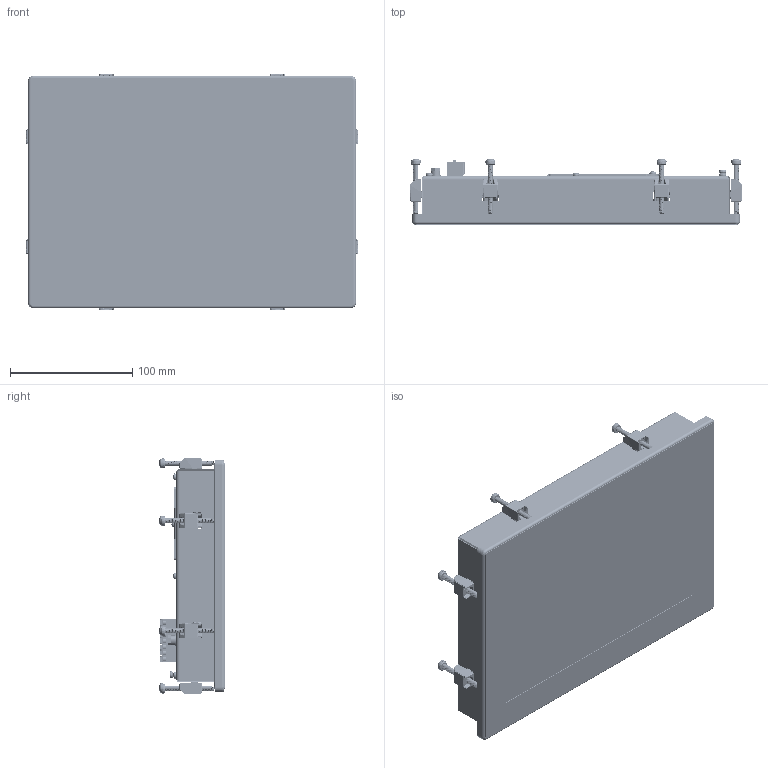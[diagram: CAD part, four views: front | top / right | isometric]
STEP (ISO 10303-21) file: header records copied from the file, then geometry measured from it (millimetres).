
FILE_DESCRIPTION(/* description */ (''),/* implementation_level */ '2;1');
FILE_NAME(/* name */ 'PC-TC-WP815_20260617_res.stp',/* time_stamp */ '2026-06-17T11:49:46+02:00',/* author */ ('ut3'),/* organization */ ('NYSS'),/* preprocessor_version */ 'ST-DEVELOPER v20.1',/* originating_system */ 'Autodesk Inventor 2026',/* authorisation */ '');
FILE_SCHEMA (('AUTOMOTIVE_DESIGN { 1 0 10303 214 3 1 1 }'));
Products named in the file (134): TD815-WP-PC_ASM; 1300_20_575_V2; EV101WXM-N10; 1600_00_016; 1300_20_576_V1_ASM; 1300_20_576_V1; DP06_1030_M3; 1600_00_228; UPS-8CAP_ASM; UPS; 0200_20_063_10F-3V; 1300_20_577_v2; 1600_00_059; M3_FTR_L; M4_FTTC_C; 1300_20_369_V2; 1600_00_165; 1600_00_166; 1600_00_167; 1900_00_326; GUARNIZIONE; BLOCCHETTO_FISSAGGIO_ASM; DADO_M4; VITE_M4X40; ISO_7045_-_M3_X_10_-_4_8_-_Z; 1600.00.026; ISO 7045 - M3 x 10 - 4.8 - Z; 0400.60.078_1910403_04_FKC-2-5-7-ST_3D; fkc_2.5-7-st; 1300_20_304_REV2; ISO 7045 - M4 x 40 - 4.8 - Z; QMB210_6; QMB210_V6_Contorno; ESTR-MAS/7PV-BLK; RJ45-10/100/1G-V-LED; USB-A; M.2-M; DADO3MACS; ETH-TRAFO-100/1000; TORR-M2.5H5.0/SP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
Assembly tree (531 placements, depth 3):
  TD815-WP-PC_ASM
    1300_20_575_V2
    EV101WXM-N10
    1600_00_016  x8
    1300_20_576_V1_ASM
      1300_20_576_V1
      DP06_1030_M3  x7
    1600_00_228  x8
    1600_00_059  x23
    UPS-8CAP_ASM
      UPS
      0200_20_063_10F-3V  x8
    1300_20_577_v2
    M3_FTR_L
    M4_FTTC_C
    1300_20_369_V2
    1600_00_165
    1600_00_166
    1600_00_167
    1900_00_326
    GUARNIZIONE
    BLOCCHETTO_FISSAGGIO_ASM  x8
      1300_20_304_REV2
      DADO_M4
      VITE_M4X40
    ISO_7045_-_M3_X_10_-_4_8_-_Z
    1600.00.026
    ISO 7045 - M3 x 10 - 4.8 - Z
    0400.60.078_1910403_04_FKC-2-5-7-ST_3D
      fkc_2.5-7-st
    1300_20_304_REV2  x8
    ISO 7045 - M4 x 40 - 4.8 - Z  x8
    QMB210_6
      QMB210_V6_Contorno
      ESTR-MAS/7PV-BLK
      R0/S  x11
      RJ45-10/100/1G-V-LED  x2
      USB-A
      M.2-M
      DADO3MACS
      ETH-TRAFO-100/1000  x2
      TORR-M2.5H5.0/SP  x4
      SMBJ5.0A-6.8  x4
      4.7nF/S3 1KV  x3
      1M/S
      AP64501SP-13  x3
      FER-100MHz-1K/S2  x4
      220/S2 1%  x5
      FER-100MHz-90OHM  x5
      TORR-M2.5H3.2/SP  x2
      PCI-E-MINI-52P-5.2
      23K7/S2 1%
      XTAL_SHIELD 20.00MHz
      IND 2.2uH 1.3A
      USB3-A
      HDMI-19P-F-V
      TVS-DIODE-4CH-0.25pF  x6
      10uF/S2  x16
      FER-100MHz-600OHM-2.5A  x9
      100uF 6.3V/S  x3
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Bounding box: 271.5 x 54.1 x 193.5 mm (x, y, z)
Volume: 635023.9 mm3; surface area: 617045.5 mm2
Topology: 541 solids, 570 shells, 11881 faces, 30557 edges, 19873 vertices
Faces by surface type: plane 5063, cylinder 4593, bspline 1367, cone 342, sphere 329, torus 187
Full cylindrical faces by diameter (mm): 0.2 x347, 0.254 x124, 0.3 x926, 0.457 x1, 0.5 x124, 0.508 x41, 0.6 x49, 0.66 x2, 0.7 x28, 0.889 x24, 1.016 x14, 1.1 x3, 1.321 x3, 1.397 x7, 1.4 x7, 1.6 x3, 1.651 x2, 2.3 x2, 2.311 x2, 2.459 x16, 2.5 x25, 2.729 x2, 2.8 x26, 2.9 x253, 3 x37, 3.2 x3, 3.25 x9, 3.4 x1, 3.5 x24, 3.6 x1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
Entity records: 206393 total; most frequent: CARTESIAN_POINT 82157, DIRECTION 24823, ORIENTED_EDGE 22533, EDGE_CURVE 11290, AXIS2_PLACEMENT_3D 9547, EDGE_LOOP 7787, VERTEX_POINT 7471, LINE 5729
